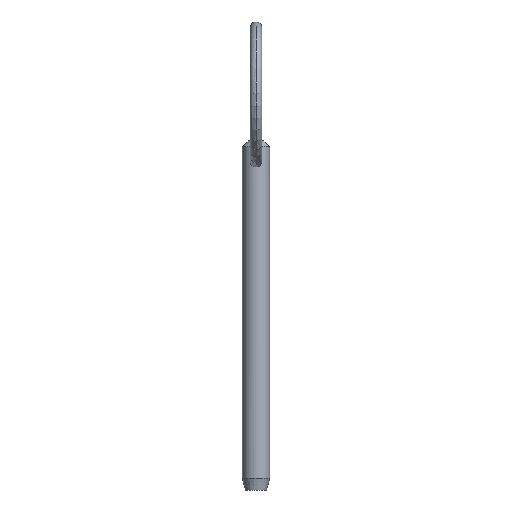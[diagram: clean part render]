
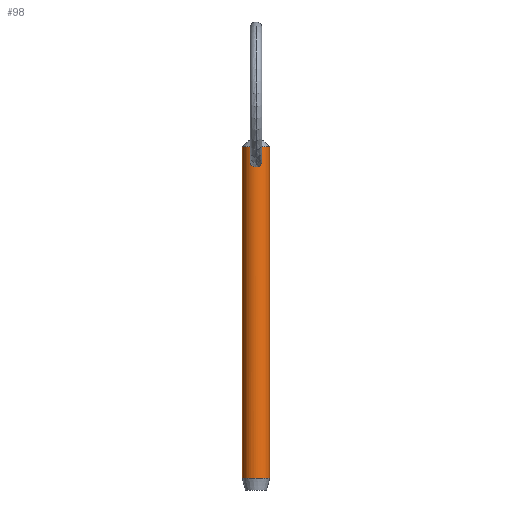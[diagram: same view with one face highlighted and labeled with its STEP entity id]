
A CAD part, front view. The second image highlights one B-rep face of the part: STEP entity #98.
In plain terms, the highlighted cylindrical face has radius 2.38 mm (diameter 4.76 mm), a partial arc.
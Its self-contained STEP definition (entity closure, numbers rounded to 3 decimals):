
#5 = CARTESIAN_POINT ( 'NONE',  ( -2.38, 0., -3.08 ) ) ;
#6 = CARTESIAN_POINT ( 'NONE',  ( -0.982, -2.169, 51.765 ) ) ;
#16 = FACE_BOUND ( 'NONE', #172, .T. ) ;
#18 = CARTESIAN_POINT ( 'NONE',  ( 0., -2.38, 53.068 ) ) ;
#20 = B_SPLINE_CURVE_WITH_KNOTS ( 'NONE', 3,
 ( #316, #81, #252, #324, #391, #173, #211, #6, #44, #285, #392, #180, #53, #368, #397, #18 ),
 .UNSPECIFIED., .F., .F.,
 ( 4, 2, 2, 2, 2, 2, 2, 4 ),
 ( 0.006, 0.006, 0.007, 0.007, 0.007, 0.008, 0.009, 0.009 ),
 .UNSPECIFIED. ) ;
#25 = CARTESIAN_POINT ( 'NONE',  ( 2.38, 0., 54.54 ) ) ;
#27 = VERTEX_POINT ( 'NONE', #25 ) ;
#29 = CARTESIAN_POINT ( 'NONE',  ( 0.615, -2.301, 52.844 ) ) ;
#30 = CARTESIAN_POINT ( 'NONE',  ( 0.793, -2.246, 52.652 ) ) ;
#37 = AXIS2_PLACEMENT_3D ( 'NONE', #460, #188, #407 ) ;
#44 = CARTESIAN_POINT ( 'NONE',  ( -1.004, -2.158, 51.899 ) ) ;
#49 = B_SPLINE_CURVE_WITH_KNOTS ( 'NONE', 3,
 ( #417, #196, #306, #340, #29, #30, #233, #271, #468, #131, #467, #338, #61, #133, #378, #195, #342, #415 ),
 .UNSPECIFIED., .F., .F.,
 ( 4, 2, 2, 2, 2, 2, 2, 2, 4 ),
 ( 0.003, 0.003, 0.003, 0.004, 0.004, 0.005, 0.005, 0.005, 0.006 ),
 .UNSPECIFIED. ) ;
#53 = CARTESIAN_POINT ( 'NONE',  ( -0.505, -2.329, 52.926 ) ) ;
#61 = CARTESIAN_POINT ( 'NONE',  ( 0.811, -2.24, 51.406 ) ) ;
#81 = CARTESIAN_POINT ( 'NONE',  ( -0.133, -2.38, 51.025 ) ) ;
#86 = ORIENTED_EDGE ( 'NONE', *, *, #312, .F. ) ;
#92 = CARTESIAN_POINT ( 'NONE',  ( 2.38, 0., -3.08 ) ) ;
#98 = ADVANCED_FACE ( 'NONE', ( #287, #16 ), #176, .T. ) ;
#99 = DIRECTION ( 'NONE',  ( -1., 0., 0. ) ) ;
#104 = ORIENTED_EDGE ( 'NONE', *, *, #218, .T. ) ;
#112 = CARTESIAN_POINT ( 'NONE',  ( 0., -2.38, 51.025 ) ) ;
#117 = VERTEX_POINT ( 'NONE', #92 ) ;
#118 = LINE ( 'NONE', #278, #447 ) ;
#122 = EDGE_LOOP ( 'NONE', ( #86, #341, #291, #153 ) ) ;
#131 = CARTESIAN_POINT ( 'NONE',  ( 1.003, -2.158, 51.899 ) ) ;
#133 = CARTESIAN_POINT ( 'NONE',  ( 0.625, -2.299, 51.221 ) ) ;
#145 = DIRECTION ( 'NONE',  ( 1., 0., 0. ) ) ;
#153 = ORIENTED_EDGE ( 'NONE', *, *, #181, .T. ) ;
#159 = LINE ( 'NONE', #209, #305 ) ;
#171 = CARTESIAN_POINT ( 'NONE',  ( 0., -2.38, 53.068 ) ) ;
#172 = EDGE_LOOP ( 'NONE', ( #104, #452 ) ) ;
#173 = CARTESIAN_POINT ( 'NONE',  ( -0.811, -2.24, 51.406 ) ) ;
#175 = DIRECTION ( 'NONE',  ( 0., 0., -1. ) ) ;
#176 = CYLINDRICAL_SURFACE ( 'NONE', #37, 2.38 ) ;
#180 = CARTESIAN_POINT ( 'NONE',  ( -0.613, -2.302, 52.846 ) ) ;
#181 = EDGE_CURVE ( 'NONE', #309, #117, #403, .T. ) ;
#188 = DIRECTION ( 'NONE',  ( 0., 0., -1. ) ) ;
#195 = CARTESIAN_POINT ( 'NONE',  ( 0.268, -2.368, 51.051 ) ) ;
#196 = CARTESIAN_POINT ( 'NONE',  ( 0.134, -2.38, 53.068 ) ) ;
#200 = CARTESIAN_POINT ( 'NONE',  ( -2.38, 0., 54.54 ) ) ;
#209 = CARTESIAN_POINT ( 'NONE',  ( 2.38, 0., 50.8 ) ) ;
#211 = CARTESIAN_POINT ( 'NONE',  ( -0.885, -2.21, 51.517 ) ) ;
#213 = VERTEX_POINT ( 'NONE', #200 ) ;
#218 = EDGE_CURVE ( 'NONE', #282, #412, #49, .T. ) ;
#233 = CARTESIAN_POINT ( 'NONE',  ( 0.865, -2.218, 52.54 ) ) ;
#235 = CARTESIAN_POINT ( 'NONE',  ( 0., 0., -3.08 ) ) ;
#252 = CARTESIAN_POINT ( 'NONE',  ( -0.268, -2.368, 51.051 ) ) ;
#254 = CARTESIAN_POINT ( 'NONE',  ( 0., 0., 54.54 ) ) ;
#261 = AXIS2_PLACEMENT_3D ( 'NONE', #254, #175, #145 ) ;
#271 = CARTESIAN_POINT ( 'NONE',  ( 0.966, -2.176, 52.297 ) ) ;
#272 = DIRECTION ( 'NONE',  ( 0., 0., 1. ) ) ;
#275 = CIRCLE ( 'NONE', #261, 2.38 ) ;
#278 = CARTESIAN_POINT ( 'NONE',  ( -2.38, 0., 50.8 ) ) ;
#279 = DIRECTION ( 'NONE',  ( 0., 0., -1. ) ) ;
#282 = VERTEX_POINT ( 'NONE', #171 ) ;
#285 = CARTESIAN_POINT ( 'NONE',  ( -0.991, -2.164, 52.301 ) ) ;
#287 = FACE_OUTER_BOUND ( 'NONE', #122, .T. ) ;
#291 = ORIENTED_EDGE ( 'NONE', *, *, #322, .T. ) ;
#305 = VECTOR ( 'NONE', #311, 1000. ) ;
#306 = CARTESIAN_POINT ( 'NONE',  ( 0.268, -2.368, 53.037 ) ) ;
#309 = VERTEX_POINT ( 'NONE', #5 ) ;
#311 = DIRECTION ( 'NONE',  ( 0., 0., -1. ) ) ;
#312 = EDGE_CURVE ( 'NONE', #27, #117, #159, .T. ) ;
#316 = CARTESIAN_POINT ( 'NONE',  ( 0., -2.38, 51.025 ) ) ;
#322 = EDGE_CURVE ( 'NONE', #213, #309, #118, .T. ) ;
#324 = CARTESIAN_POINT ( 'NONE',  ( -0.514, -2.327, 51.149 ) ) ;
#338 = CARTESIAN_POINT ( 'NONE',  ( 0.885, -2.21, 51.517 ) ) ;
#340 = CARTESIAN_POINT ( 'NONE',  ( 0.508, -2.328, 52.924 ) ) ;
#341 = ORIENTED_EDGE ( 'NONE', *, *, #402, .T. ) ;
#342 = CARTESIAN_POINT ( 'NONE',  ( 0.133, -2.38, 51.025 ) ) ;
#368 = CARTESIAN_POINT ( 'NONE',  ( -0.267, -2.368, 53.037 ) ) ;
#378 = CARTESIAN_POINT ( 'NONE',  ( 0.513, -2.327, 51.148 ) ) ;
#391 = CARTESIAN_POINT ( 'NONE',  ( -0.626, -2.298, 51.222 ) ) ;
#392 = CARTESIAN_POINT ( 'NONE',  ( -0.88, -2.219, 52.56 ) ) ;
#397 = CARTESIAN_POINT ( 'NONE',  ( -0.134, -2.38, 53.068 ) ) ;
#402 = EDGE_CURVE ( 'NONE', #27, #213, #275, .T. ) ;
#403 = CIRCLE ( 'NONE', #470, 2.38 ) ;
#407 = DIRECTION ( 'NONE',  ( -1., 0., 0. ) ) ;
#412 = VERTEX_POINT ( 'NONE', #112 ) ;
#415 = CARTESIAN_POINT ( 'NONE',  ( 0., -2.38, 51.025 ) ) ;
#417 = CARTESIAN_POINT ( 'NONE',  ( 0., -2.38, 53.068 ) ) ;
#440 = EDGE_CURVE ( 'NONE', #412, #282, #20, .T. ) ;
#447 = VECTOR ( 'NONE', #279, 1000. ) ;
#452 = ORIENTED_EDGE ( 'NONE', *, *, #440, .T. ) ;
#460 = CARTESIAN_POINT ( 'NONE',  ( 0., 0., 50.8 ) ) ;
#467 = CARTESIAN_POINT ( 'NONE',  ( 0.981, -2.169, 51.764 ) ) ;
#468 = CARTESIAN_POINT ( 'NONE',  ( 0.996, -2.162, 52.164 ) ) ;
#470 = AXIS2_PLACEMENT_3D ( 'NONE', #235, #272, #99 ) ;
